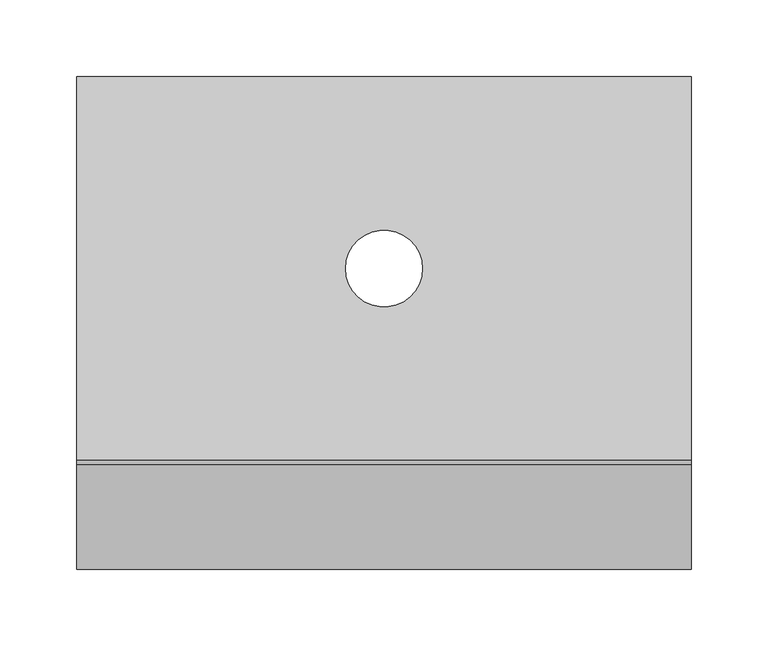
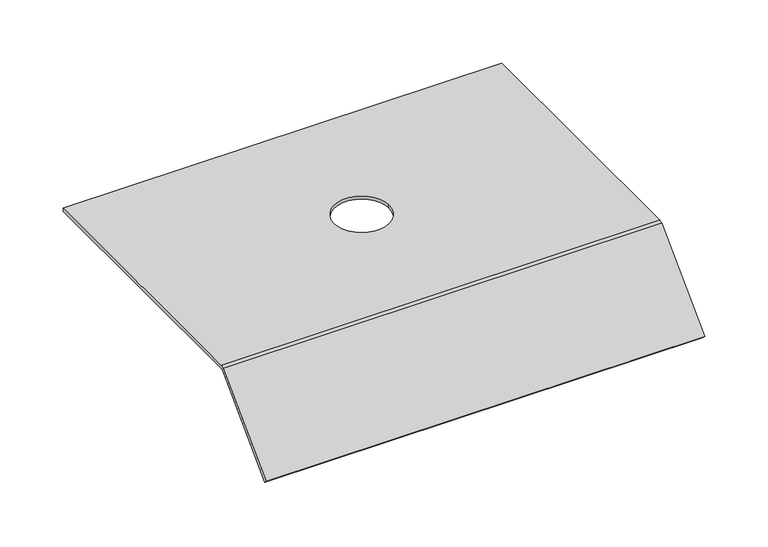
"""IFC4 building model written with IfcOpenShell, lengths in millimetres: proxy geometry, Electrical_Installation_Hager_Covers-With-Installation-Opening-GBZ : Electrical_Installation_Hager_Covers-With-Installation-Opening-GBZ."""

from ifc_helpers import new_model, si_unit, frame, origin, place, context, project, spatial, polyline, circle_curve, source, transform, mapped, element, save
from ifc_brep_helpers import plane_surface, cylinder_surface, revolved_surface, advanced_brep


def electrical_fixtures_d09597e5(model_context):
    return source(origin(), model_context, "Body", "AdvancedBrep", [
        advanced_brep(
        [(0.0, 125.0, 40.5), (0.0, 125.0, 37.5), (0.0, -124.8229541, 37.5), (0.0, -125.8322972, 37.0819164), (0.0, -193.712807, -30.7985934), (0.0, -195.8341273, -28.6772731), (0.0, -127.8206472, 39.336207), (0.0, -125.0110025, 40.5), (400.0, 125.0, 40.5), (400.0, -125.0110025, 40.5), (400.0, -127.8206472, 39.336207), (400.0, -195.8341273, -28.6772731), (400.0, -193.712807, -30.7985934), (400.0, -125.8322972, 37.0819164), (400.0, -124.8229541, 37.5), (400.0, 125.0, 37.5), (175.0, 0.0, 37.5), (225.0, 0.0, 37.5), (225.0, 0.0, 40.5), (175.0, 0.0, 40.5)],
        [
            (0, 1),
            (1, 2),
            (2, 3, circle_curve(frame((0.0, -124.8229541, 36.0725733), z_axis=(1.0, 0.0, 0.0), x_axis=(0.0, 1.0, 0.0)), 1.4274267)),
            (3, 4),
            (4, 5),
            (5, 6),
            (6, 7, circle_curve(frame((0.0, -125.0110025, 36.5265623), z_axis=(-1.0, 0.0, 0.0), x_axis=(0.0, 1.0, 0.0)), 3.9734377)),
            (7, 0),
            (8, 9),
            (9, 10, circle_curve(frame((400.0, -125.0110025, 36.5265623), z_axis=(1.0, 0.0, 0.0), x_axis=(0.0, 1.0, 0.0)), 3.9734377)),
            (10, 11),
            (11, 12),
            (12, 13),
            (13, 14, circle_curve(frame((400.0, -124.8229541, 36.0725733), z_axis=(-1.0, 0.0, 0.0), x_axis=(0.0, 1.0, 0.0)), 1.4274267)),
            (14, 15),
            (15, 8),
            (0, 8),
            (15, 1),
            (14, 2),
            (16, 17, circle_curve(frame((200.0, 0.0, 37.5), z_axis=(0.0, 0.0, 1.0), x_axis=(1.0, 0.0, 0.0)), 25.0)),
            (17, 16, circle_curve(frame((200.0, 0.0, 37.5), z_axis=(0.0, 0.0, 1.0), x_axis=(1.0, 0.0, 0.0)), 25.0)),
            (13, 3),
            (12, 4),
            (11, 5),
            (10, 6),
            (9, 7),
            (18, 19, circle_curve(frame((200.0, 0.0, 40.5), z_axis=(0.0, 0.0, -1.0), x_axis=(1.0, 0.0, 0.0)), 25.0)),
            (19, 18, circle_curve(frame((200.0, 0.0, 40.5), z_axis=(0.0, 0.0, -1.0), x_axis=(1.0, 0.0, 0.0)), 25.0)),
            (16, 19),
            (18, 17),
        ],
        [
            plane_surface(frame((0.0, 0.3269864, 15.0), z_axis=(-1.0, 0.0, 0.0), x_axis=(0.0, 0.0, 1.0))),
            plane_surface(frame((400.0, 0.3269864, 15.0), z_axis=(1.0, 0.0, 0.0), x_axis=(0.0, 0.0, 1.0))),
            plane_surface(frame((0.0, 125.0, 40.5), z_axis=(0.0, 1.0, 0.0), x_axis=(1.0, 0.0, 0.0))),
            plane_surface(frame((0.0, 125.0, 37.5), z_axis=(0.0, 0.0, -1.0), x_axis=(1.0, 0.0, 0.0))),
            revolved_surface(polyline([(400.0, -123.3955274, 36.0725733), (0.0, -123.3955274, 36.0725733)]), (0.0, -124.8229541, 36.0725733), (1.0, 0.0, 0.0)),
            plane_surface(frame((0.0, -125.8322972, 37.0819164), z_axis=(0.0, 0.7071067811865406, -0.7071067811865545), x_axis=(1.0, 0.0, 0.0))),
            plane_surface(frame((0.0, -193.712807, -30.7985934), z_axis=(0.0, -0.7071067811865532, -0.7071067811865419), x_axis=(1.0, 0.0, 0.0))),
            plane_surface(frame((0.0, -195.8341273, -28.6772731), z_axis=(0.0, -0.7071067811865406, 0.7071067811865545), x_axis=(1.0, 0.0, 0.0))),
            cylinder_surface(frame((0.0, -125.0110025, 36.5265623), z_axis=(-1.0, 0.0, 0.0), x_axis=(0.0, 1.0, 0.0)), 3.9734377),
            plane_surface(frame((0.0, -125.0110025, 40.5), z_axis=(0.0, 0.0, 1.0), x_axis=(1.0, 0.0, 0.0))),
            revolved_surface(polyline([(225.0, 0.0, 40.5), (225.0, 0.0, 37.5)]), (200.0, 0.0, 0.0), (0.0, 0.0, 1.0)),
        ],
        [
            (0, [[1, 2, 3, 4, 5, 6, 7, 8]]),
            (1, [[9, 10, 11, 12, 13, 14, 15, 16]]),
            (2, [[-1, 17, -16, 18]]),
            (3, [[-2, -18, -15, 19], [20, 21]]),
            (4, [[-3, -19, -14, 22]]),
            (5, [[-4, -22, -13, 23]]),
            (6, [[-5, -23, -12, 24]]),
            (7, [[-6, -24, -11, 25]]),
            (8, [[-7, -25, -10, 26]]),
            (9, [[-8, -26, -9, -17], [27, 28]]),
            (10, [[29, -27, 30, -20]]),
            (10, [[-29, -21, -30, -28]]),
        ],
    ),
    ])


if __name__ == "__main__":
    model = new_model("IFC4")
    model_context = context("Model", 3, world=origin())
    ifc_project = project(units=[si_unit("LENGTHUNIT", "METRE", prefix="MILLI")], contexts=[model_context])
    site = spatial("IfcSite", under=ifc_project)
    building = spatial("IfcBuilding", under=site)
    placement = place(None, origin())
    electrical_fixtures_shape = electrical_fixtures_d09597e5(model_context)
    element("IfcBuildingElementProxy", 1, Name="Electrical_Installation_Hager_Covers-With-Installation-Opening-GBZ : Electrical_Installation_Hager_Covers-With-Installation-Opening-GBZ", ObjectType="Electrical_Installation_Hager_Covers-With-Installation-Opening-GBZ : Electrical_Installation_Hager_Covers-With-Installation-Opening-GBZ", at=placement, inside=building, context=model_context, shape_type="MappedRepresentation", body=[
        mapped(electrical_fixtures_shape, transform((0.0, 0.0, 0.0), x_axis=(1.0, 0.0, 0.0), y_axis=(0.0, 1.0, 0.0), z_axis=(0.0, 0.0, 1.0))),
    ])
    save(model, "model.ifc")
